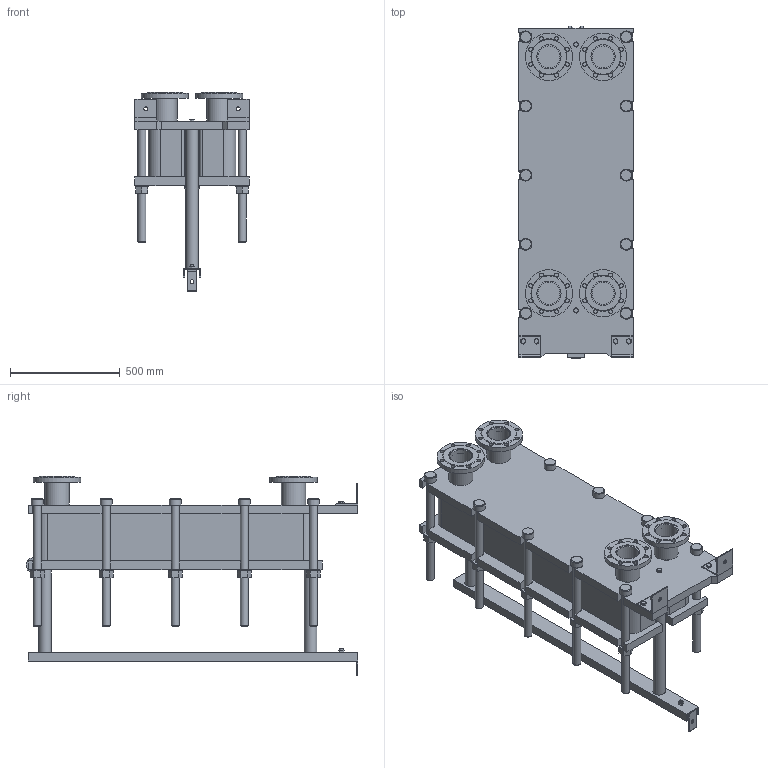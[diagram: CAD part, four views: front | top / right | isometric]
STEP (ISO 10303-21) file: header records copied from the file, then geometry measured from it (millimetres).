
FILE_DESCRIPTION(/* description */ (''),/* implementation_level */ '2;1');
FILE_NAME(/* name */ 'C:\Users\zhuro\Desktop\ENCO\TO\ЭН-04\ЭН-0,5-04-62-1.stp',/* time_stamp */ '2022-06-06T10:49:48+03:00',/* author */ ('zhuro'),/* organization */ (''),/* preprocessor_version */ 'ST-DEVELOPER v18.1',/* originating_system */ 'Autodesk Inventor 2022',/* authorisation */ '');
FILE_SCHEMA (('AUTOMOTIVE_DESIGN { 1 0 10303 214 3 1 1 }'));
Length unit declared in the file: millimetre
Products named in the file (1): ЭН-0,5-04-62-1
Bounding box: 520 x 1510 x 906 mm (x, y, z)
Volume: 176058071.2 mm3; surface area: 7519638.3 mm2
Topology: 45 solids, 45 shells, 668 faces, 1611 edges, 1048 vertices
Faces by surface type: plane 457, cylinder 166, cone 39, torus 6
Full cylindrical faces by diameter (mm): 8 x4, 10 x2, 16 x8, 18 x35, 36 x25, 40 x2, 42 x1, 45 x4, 54 x10, 57 x2, 60 x10, 68 x2, 100 x4, 110 x8, 215 x4
Entity records: 23607 total; most frequent: CARTESIAN_POINT 7348, DIRECTION 3371, ORIENTED_EDGE 3142, EDGE_CURVE 1571, AXIS2_PLACEMENT_3D 1199, VERTEX_POINT 1044, LINE 973, VECTOR 973
